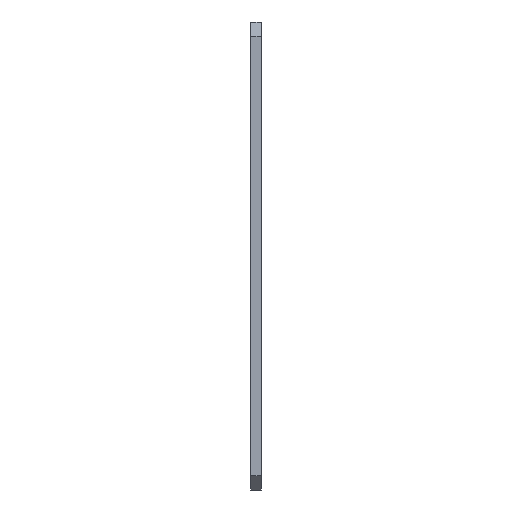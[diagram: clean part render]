
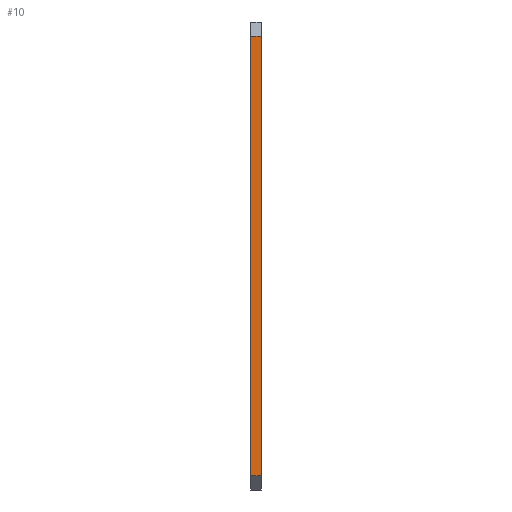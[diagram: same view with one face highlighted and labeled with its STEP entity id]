
A CAD part, left-side view. The second image highlights one B-rep face of the part: STEP entity #10.
In plain terms, the highlighted planar face has unit normal (-1, 0, 0).
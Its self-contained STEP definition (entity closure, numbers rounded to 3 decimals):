
#10 = ADVANCED_FACE ( 'NONE', ( #267 ), #549, .T. ) ;
#34 = LINE ( 'NONE', #893, #118 ) ;
#97 = LINE ( 'NONE', #819, #150 ) ;
#113 = VECTOR ( 'NONE', #622, 1000. ) ;
#118 = VECTOR ( 'NONE', #755, 1000. ) ;
#129 = AXIS2_PLACEMENT_3D ( 'NONE', #742, #814, #545 ) ;
#150 = VECTOR ( 'NONE', #801, 1000. ) ;
#173 = LINE ( 'NONE', #504, #113 ) ;
#205 = VECTOR ( 'NONE', #594, 1000. ) ;
#217 = LINE ( 'NONE', #578, #205 ) ;
#267 = FACE_OUTER_BOUND ( 'NONE', #394, .T. ) ;
#385 = ORIENTED_EDGE ( 'NONE', *, *, #908, .T. ) ;
#386 = ORIENTED_EDGE ( 'NONE', *, *, #972, .T. ) ;
#387 = ORIENTED_EDGE ( 'NONE', *, *, #954, .F. ) ;
#389 = ORIENTED_EDGE ( 'NONE', *, *, #957, .F. ) ;
#394 = EDGE_LOOP ( 'NONE', ( #385, #386, #387, #389 ) ) ;
#504 = CARTESIAN_POINT ( 'NONE',  ( -66.5, 0., -30.5 ) ) ;
#545 = DIRECTION ( 'NONE',  ( 0., 0., 1. ) ) ;
#549 = PLANE ( 'NONE',  #129 ) ;
#563 = VERTEX_POINT ( 'NONE', #635 ) ;
#578 = CARTESIAN_POINT ( 'NONE',  ( -66.5, 1.5, 0. ) ) ;
#594 = DIRECTION ( 'NONE',  ( 0., 0., 1. ) ) ;
#596 = VERTEX_POINT ( 'NONE', #830 ) ;
#622 = DIRECTION ( 'NONE',  ( 0., -1., 0. ) ) ;
#635 = CARTESIAN_POINT ( 'NONE',  ( -66.5, 0., -30.5 ) ) ;
#656 = VERTEX_POINT ( 'NONE', #856 ) ;
#667 = VERTEX_POINT ( 'NONE', #901 ) ;
#742 = CARTESIAN_POINT ( 'NONE',  ( -66.5, 0., -30.5 ) ) ;
#755 = DIRECTION ( 'NONE',  ( 0., -1., 0. ) ) ;
#801 = DIRECTION ( 'NONE',  ( 0., 0., 1. ) ) ;
#814 = DIRECTION ( 'NONE',  ( -1., 0., 0. ) ) ;
#819 = CARTESIAN_POINT ( 'NONE',  ( -66.5, 0., -30.5 ) ) ;
#830 = CARTESIAN_POINT ( 'NONE',  ( -66.5, 1.5, -30.5 ) ) ;
#856 = CARTESIAN_POINT ( 'NONE',  ( -66.5, 1.5, 30.5 ) ) ;
#893 = CARTESIAN_POINT ( 'NONE',  ( -66.5, 0., 30.5 ) ) ;
#901 = CARTESIAN_POINT ( 'NONE',  ( -66.5, 0., 30.5 ) ) ;
#908 = EDGE_CURVE ( 'NONE', #596, #563, #173, .T. ) ;
#954 = EDGE_CURVE ( 'NONE', #656, #667, #34, .T. ) ;
#957 = EDGE_CURVE ( 'NONE', #596, #656, #217, .T. ) ;
#972 = EDGE_CURVE ( 'NONE', #563, #667, #97, .T. ) ;
